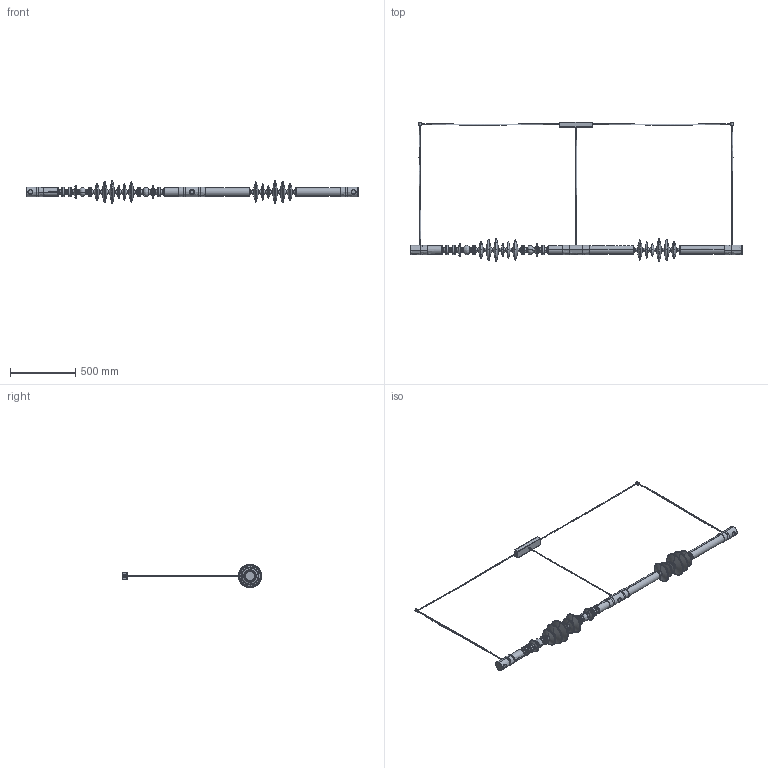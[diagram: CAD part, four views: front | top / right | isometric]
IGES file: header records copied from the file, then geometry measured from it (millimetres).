
Start section: SolidWorks IGES file using analytic representation for surfaces
Global section: file name: G:\Drive condivisi\Ufficio Tecnico\Research\X21 Filamento\Progetto\ATC-X21-S5\Architetti\Filamento Horizontal Double, Shape 1+2.IGS; native system: SolidWorks 2025; preprocessor: SolidWorks 2025; author: Tecnico01; date: 260430.112611; units: millimetre
Bounding box: 2550 x 1068 x 177 mm (x, y, z)
Surface area: 1954703.3 mm2 (no closed solid volume)
Topology: 0 solids, 0 shells, 1276 faces, 16192 edges, 16182 vertices
Faces by surface type: bspline 657, revolution 619
